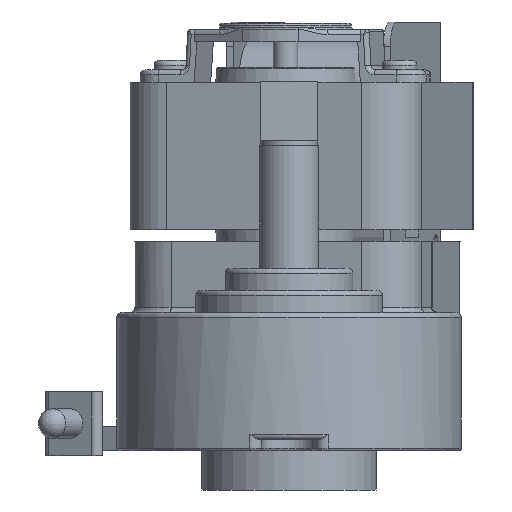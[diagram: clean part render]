
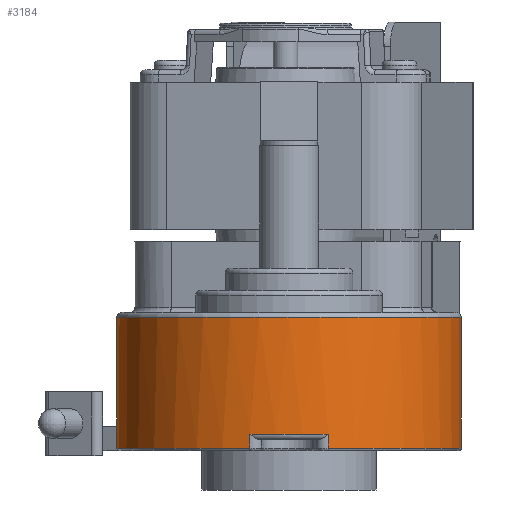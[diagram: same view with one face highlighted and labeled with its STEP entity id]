
A CAD part, front view. The second image highlights one B-rep face of the part: STEP entity #3184.
In plain terms, the highlighted cylindrical face has radius 35 mm (diameter 70 mm), a partial arc.
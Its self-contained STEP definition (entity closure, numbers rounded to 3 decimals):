
#322=CARTESIAN_POINT('',(-10.,-148.,-4.8));
#323=VERTEX_POINT('',#322);
#354=CARTESIAN_POINT('',(17.045,-182.084,-4.8));
#355=VERTEX_POINT('',#354);
#363=CARTESIAN_POINT('',(25.,-148.,-4.8));
#364=DIRECTION('',(0.0,0.0,-1.0));
#365=DIRECTION('',(-0.783,-0.622,0.0));
#366=AXIS2_PLACEMENT_3D('',#363,#364,#365);
#367=CIRCLE('',#366,35.);
#368=EDGE_CURVE('',#355,#323,#367,.T.);
#520=CARTESIAN_POINT('',(32.955,-182.084,-4.8));
#521=VERTEX_POINT('',#520);
#554=CARTESIAN_POINT('',(60.,-148.,-4.8));
#555=VERTEX_POINT('',#554);
#563=CARTESIAN_POINT('',(25.,-148.,-4.8));
#564=DIRECTION('',(0.0,0.0,-1.0));
#565=DIRECTION('',(0.783,-0.622,0.0));
#566=AXIS2_PLACEMENT_3D('',#563,#564,#565);
#567=CIRCLE('',#566,35.);
#568=EDGE_CURVE('',#555,#521,#567,.T.);
#3086=CARTESIAN_POINT('',(32.955,-182.084,-2.));
#3087=VERTEX_POINT('',#3086);
#3103=CARTESIAN_POINT('',(17.045,-182.084,-2.));
#3104=VERTEX_POINT('',#3103);
#3105=CARTESIAN_POINT('',(25.,-148.,-2.));
#3106=DIRECTION('',(0.0,0.0,-1.0));
#3107=DIRECTION('',(0.0,-1.0,0.0));
#3108=AXIS2_PLACEMENT_3D('',#3105,#3106,#3107);
#3109=CIRCLE('',#3108,35.0);
#3110=EDGE_CURVE('',#3087,#3104,#3109,.T.);
#3139=CARTESIAN_POINT('',(25.,-148.,22.8));
#3140=DIRECTION('',(0.0,0.0,-1.0));
#3141=DIRECTION('',(-1.0,0.0,0.0));
#3142=AXIS2_PLACEMENT_3D('',#3139,#3140,#3141);
#3143=CYLINDRICAL_SURFACE('',#3142,35.0);
#3144=ORIENTED_EDGE('',*,*,#568,.F.);
#3145=CARTESIAN_POINT('',(60.,-148.,21.8));
#3146=VERTEX_POINT('',#3145);
#3147=CARTESIAN_POINT('',(60.,-148.,-4.8));
#3148=DIRECTION('',(0.0,0.0,1.0));
#3149=VECTOR('',#3148,26.6);
#3150=LINE('',#3147,#3149);
#3151=EDGE_CURVE('',#555,#3146,#3150,.T.);
#3152=ORIENTED_EDGE('',*,*,#3151,.T.);
#3153=CARTESIAN_POINT('',(-10.,-148.,21.8));
#3154=VERTEX_POINT('',#3153);
#3155=CARTESIAN_POINT('',(25.,-148.,21.8));
#3156=DIRECTION('',(0.0,0.0,1.0));
#3157=DIRECTION('',(0.0,-1.0,0.0));
#3158=AXIS2_PLACEMENT_3D('',#3155,#3156,#3157);
#3159=CIRCLE('',#3158,35.0);
#3160=EDGE_CURVE('',#3154,#3146,#3159,.T.);
#3161=ORIENTED_EDGE('',*,*,#3160,.F.);
#3162=CARTESIAN_POINT('',(-10.,-148.,-4.8));
#3163=DIRECTION('',(0.0,0.0,1.0));
#3164=VECTOR('',#3163,26.6);
#3165=LINE('',#3162,#3164);
#3166=EDGE_CURVE('',#323,#3154,#3165,.T.);
#3167=ORIENTED_EDGE('',*,*,#3166,.F.);
#3168=ORIENTED_EDGE('',*,*,#368,.F.);
#3169=CARTESIAN_POINT('',(17.045,-182.084,-2.0));
#3170=DIRECTION('',(0.0,0.0,-1.0));
#3171=VECTOR('',#3170,2.8);
#3172=LINE('',#3169,#3171);
#3173=EDGE_CURVE('',#3104,#355,#3172,.T.);
#3174=ORIENTED_EDGE('',*,*,#3173,.F.);
#3175=ORIENTED_EDGE('',*,*,#3110,.F.);
#3176=CARTESIAN_POINT('',(32.955,-182.084,-2.0));
#3177=DIRECTION('',(0.0,0.0,-1.0));
#3178=VECTOR('',#3177,2.8);
#3179=LINE('',#3176,#3178);
#3180=EDGE_CURVE('',#3087,#521,#3179,.T.);
#3181=ORIENTED_EDGE('',*,*,#3180,.T.);
#3182=EDGE_LOOP('',(#3144,#3152,#3161,#3167,#3168,#3174,#3175,#3181));
#3183=FACE_OUTER_BOUND('',#3182,.T.);
#3184=ADVANCED_FACE('',(#3183),#3143,.T.);
